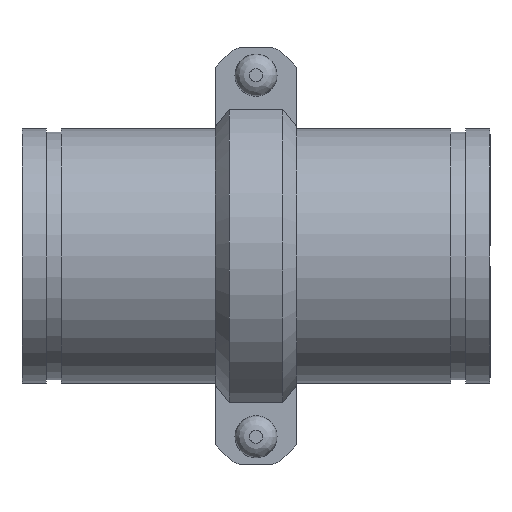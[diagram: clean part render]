
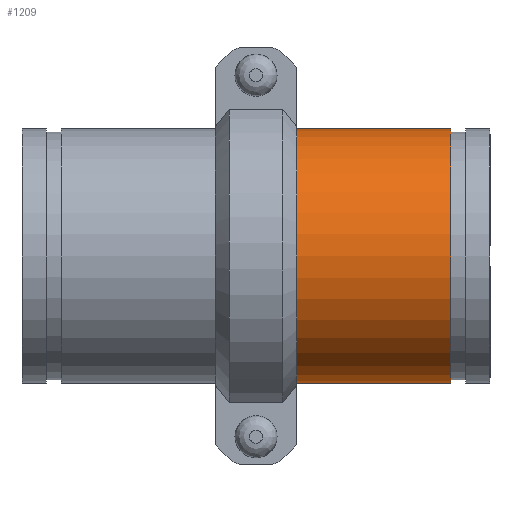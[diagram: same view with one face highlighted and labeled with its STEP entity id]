
A CAD part, front view. The second image highlights one B-rep face of the part: STEP entity #1209.
In plain terms, the highlighted cylindrical face has radius 82.55 mm (diameter 165.1 mm), a full revolution.
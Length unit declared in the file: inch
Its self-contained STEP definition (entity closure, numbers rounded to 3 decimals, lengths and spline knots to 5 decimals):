
#48=LINE('',#1929,#135);
#135=VECTOR('',#1570,3.25);
#222=CYLINDRICAL_SURFACE('',#1395,3.25);
#267=FACE_OUTER_BOUND('',#340,.T.);
#340=EDGE_LOOP('',(#797,#798,#799,#800,#801,#802));
#432=CIRCLE('',#1393,3.25);
#433=CIRCLE('',#1394,3.25);
#434=CIRCLE('',#1396,3.25);
#435=CIRCLE('',#1397,3.25);
#500=VERTEX_POINT('',#1920);
#501=VERTEX_POINT('',#1921);
#502=VERTEX_POINT('',#1925);
#503=VERTEX_POINT('',#1926);
#617=EDGE_CURVE('',#500,#501,#432,.T.);
#618=EDGE_CURVE('',#501,#500,#433,.T.);
#619=EDGE_CURVE('',#502,#503,#434,.T.);
#620=EDGE_CURVE('',#503,#502,#435,.T.);
#621=EDGE_CURVE('',#503,#501,#48,.T.);
#797=ORIENTED_EDGE('',*,*,#619,.F.);
#798=ORIENTED_EDGE('',*,*,#620,.F.);
#799=ORIENTED_EDGE('',*,*,#621,.T.);
#800=ORIENTED_EDGE('',*,*,#618,.T.);
#801=ORIENTED_EDGE('',*,*,#617,.T.);
#802=ORIENTED_EDGE('',*,*,#621,.F.);
#1209=ADVANCED_FACE('',(#267),#222,.T.);
#1393=AXIS2_PLACEMENT_3D('',#1922,#1560,#1561);
#1394=AXIS2_PLACEMENT_3D('',#1923,#1562,#1563);
#1395=AXIS2_PLACEMENT_3D('',#1924,#1564,#1565);
#1396=AXIS2_PLACEMENT_3D('',#1927,#1566,#1567);
#1397=AXIS2_PLACEMENT_3D('',#1928,#1568,#1569);
#1560=DIRECTION('center_axis',(-1.,0.,0.));
#1561=DIRECTION('ref_axis',(0.,0.,1.));
#1562=DIRECTION('center_axis',(-1.,0.,0.));
#1563=DIRECTION('ref_axis',(0.,0.,1.));
#1564=DIRECTION('center_axis',(-1.,0.,0.));
#1565=DIRECTION('ref_axis',(0.,1.,0.));
#1566=DIRECTION('center_axis',(-1.,0.,0.));
#1567=DIRECTION('ref_axis',(0.,0.,1.));
#1568=DIRECTION('center_axis',(-1.,0.,0.));
#1569=DIRECTION('ref_axis',(0.,0.,1.));
#1570=DIRECTION('',(1.,0.,0.));
#1920=CARTESIAN_POINT('',(1.985,3.25,0.));
#1921=CARTESIAN_POINT('',(1.985,-3.25,0.));
#1922=CARTESIAN_POINT('Origin',(1.985,0.,0.));
#1923=CARTESIAN_POINT('Origin',(1.985,0.,0.));
#1924=CARTESIAN_POINT('Origin',(0.,0.,
0.));
#1925=CARTESIAN_POINT('',(-1.985,3.25,0.));
#1926=CARTESIAN_POINT('',(-1.985,-3.25,0.));
#1927=CARTESIAN_POINT('Origin',(-1.985,0.,0.));
#1928=CARTESIAN_POINT('Origin',(-1.985,0.,0.));
#1929=CARTESIAN_POINT('',(0.,-3.25,0.));
